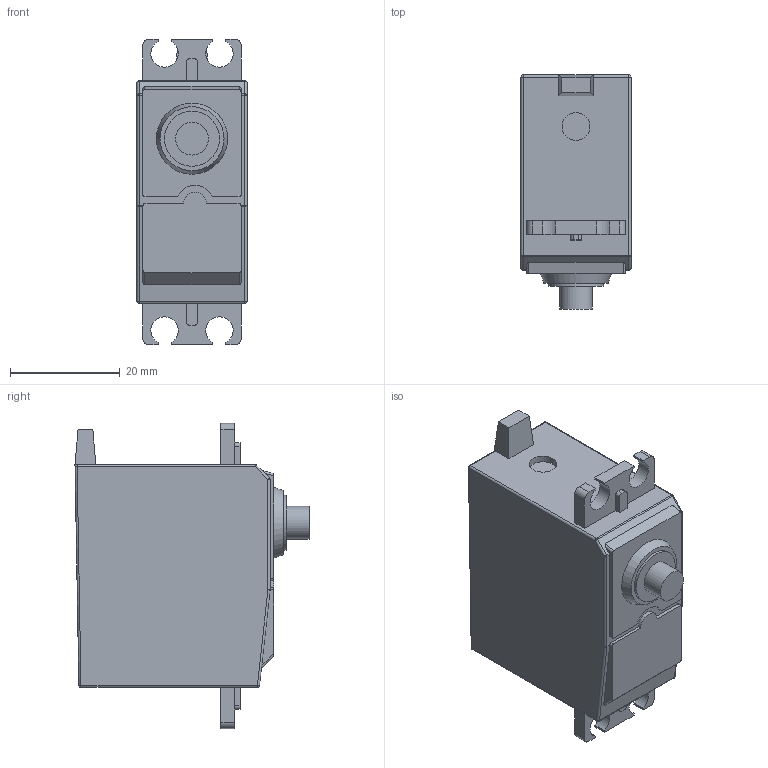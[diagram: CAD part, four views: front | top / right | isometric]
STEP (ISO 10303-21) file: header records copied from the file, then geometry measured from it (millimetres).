
FILE_DESCRIPTION(/* description */ ('STEP AP242','CAx-IF Rec.Pracs.---Representation and Presentation of Product Manufacturing Information (PMI)---4.0---2014-10-13','CAx-IF Rec.Pracs.---3D Tessellated Geometry---0.4---2014-09-14','2;1'),/* implementation_level */ '2;1');
FILE_NAME(/* name */ '65dac11af3c31e2e3b9e2029',/* time_stamp */ '2024-02-25T04:24:58Z',/* author */ (''),/* organization */ (''),/* preprocessor_version */ 'ST-DEVELOPER v19.4',/* originating_system */ ' ',/* authorisation */ ' ');
FILE_SCHEMA (('AP242_MANAGED_MODEL_BASED_3D_ENGINEERING_MIM_LF { 1 0 10303 442 1 1 4 }'));
Length unit declared in the file: metre
Products named in the file (1): Part 1
Bounding box: 20.07 x 42.67 x 55.64 mm (x, y, z)
Volume: 29796.9 mm3; surface area: 6706.1 mm2
Topology: 1 solids, 1 shells, 118 faces, 309 edges, 191 vertices
Faces by surface type: plane 59, cylinder 46, sphere 12, cone 1
Full cylindrical faces by diameter (mm): 5.08 x1, 5.969 x1, 10.033 x1
Entity records: 3571 total; most frequent: DIRECTION 632, CARTESIAN_POINT 615, ORIENTED_EDGE 594, EDGE_CURVE 297, AXIS2_PLACEMENT_3D 218, LINE 196, VECTOR 196, VERTEX_POINT 191
